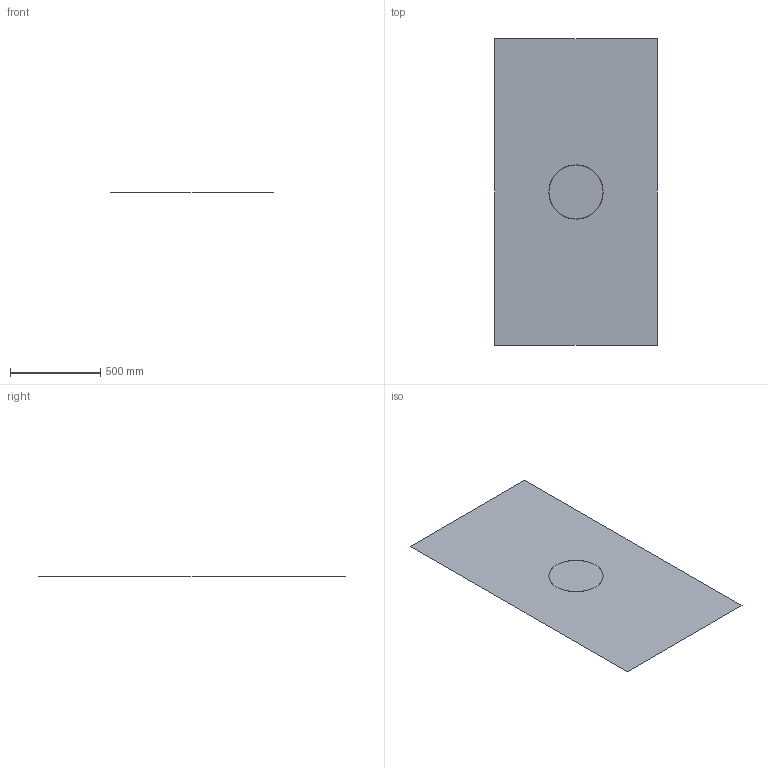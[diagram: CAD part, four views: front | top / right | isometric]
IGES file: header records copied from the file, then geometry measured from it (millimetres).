
Global section: file name: Drawing5; native system: AutoCAD 2021 - 简体中文 (Simplified Chinese),62HAuto; preprocessor: desk Translation Framework DWG producer (atf_dwg_producer); organization: unknown; date: 20250304.142828; units: millimetre
Bounding box: 900 x 1700 x 0 mm (x, y, z)
Surface area: 1530000 mm2 (no closed solid volume)
Topology: 0 solids, 0 shells, 2 faces, 12 edges, 12 vertices
Faces by surface type: bspline 2
